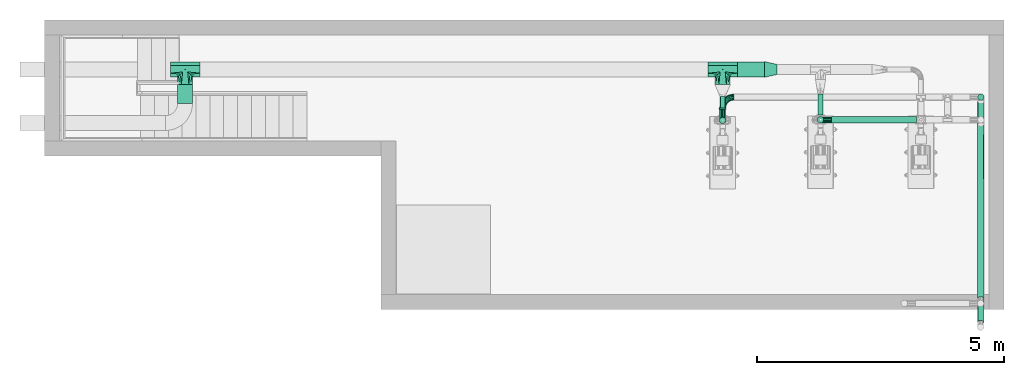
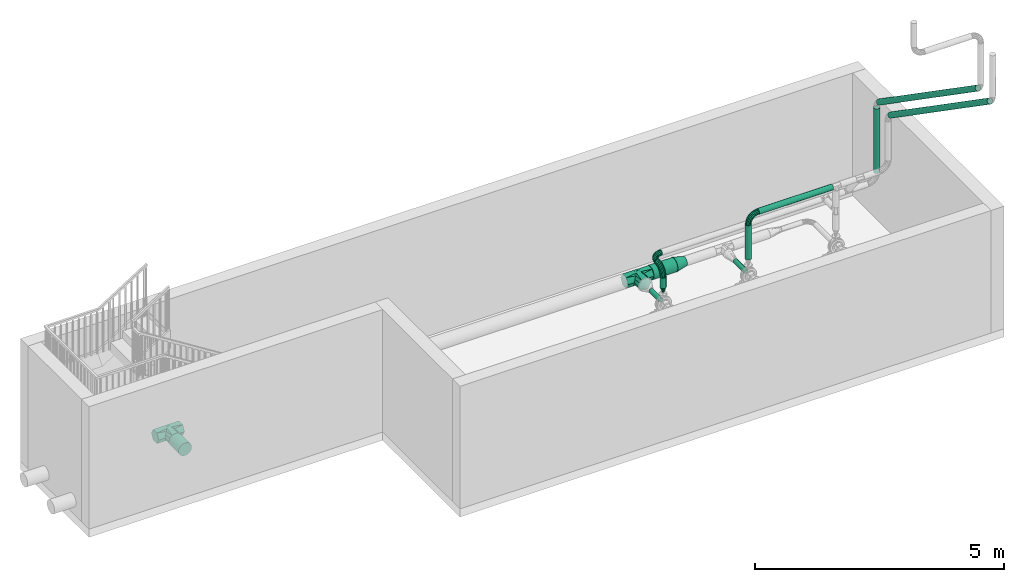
# One storey, part 5 of 12: 11 flow segments, 7 flow fittings.
"""IFC2X3 building model written with IfcOpenShell, lengths in millimetres."""

from ifc_helpers import new_model, entity, si_unit, converted_unit, direction, frame, frame_2d, origin, origin_2d_with_axis, place, context, subcontext, project, spatial, circle, extrude, faceted_brep, source, transform, mapped, material, type_object, type_shapes, element, save


model = new_model("IFC2X3")

# Units and contexts
model_context = context("Model", 3, precision=0.01, world=origin(), true_north=direction((6.123031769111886e-17, 1.0)))
body_context = subcontext(model_context, "Body", "Model", "MODEL_VIEW")
ifc_project = project(units=[si_unit("LENGTHUNIT", "METRE", prefix="MILLI"), converted_unit("PLANEANGLEUNIT", "DEGREE", entity("IfcPlaneAngleMeasure", 0.017453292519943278), si_unit("PLANEANGLEUNIT", "RADIAN"), dimensions=[0, 0, 0, 0, 0, 0, 0]), si_unit("AREAUNIT", "SQUARE_METRE")], contexts=[model_context])

# Site, building, storey
site_placement = place(None, frame((7776.576483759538, 118.3519876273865, 0.0)))
site = spatial("IfcSite", under=ifc_project, at=site_placement, Name="Default", CompositionType="ELEMENT")
building_placement = place(site_placement, origin())
building = spatial("IfcBuilding", under=site, at=building_placement, Name="Bygning (endres i Project Information)", CompositionType="ELEMENT")
storey_placement = place(building_placement, frame((0.0, 0.0, 11000.0)))
storey = spatial("IfcBuildingStorey", under=building, at=storey_placement, Name="Plan U2 - Arbeid", CompositionType="ELEMENT", Elevation=10999.999999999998)

# Flow segments
ifc_material = material(Name="SS 2343 Rustfritt stål, prosessrør, generisk")
pipe_segment_type = type_object("IfcPipeSegmentType", Name="Pipe Types:AISI 304L Rustfritt", PredefinedType="NOTDEFINED", material=ifc_material)
flow_segment_1_placement = place(storey_placement, origin())
element("IfcFlowSegment", 1, at=flow_segment_1_placement, inside=storey, type_object=pipe_segment_type, Name="Pipe Types:AISI 304L Rustfritt", ObjectType="Pipe Types:AISI 304L Rustfritt", context=body_context, shape_type="SweptSolid", body=[
    extrude(circle(Radius=65.5, at=origin_2d_with_axis()), frame((31807.29885235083, 32941.66422853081, 3169.5614004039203), z_axis=(-0.0010326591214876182, -0.8218893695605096, 0.5696462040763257), x_axis=(-0.9999992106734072, 0.0012564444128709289, 0.0)), (0.0, 0.0, 1.0), 4841.2973779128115),
])
flow_segment_2_placement = place(storey_placement, origin())
element("IfcFlowSegment", 2, at=flow_segment_2_placement, inside=storey, type_object=pipe_segment_type, Name="Pipe Types:AISI 304L Rustfritt", ObjectType="Pipe Types:AISI 304L Rustfritt", context=body_context, shape_type="SweptSolid", body=[
    extrude(circle(Radius=65.5, at=frame_2d((0.0, -1.7799953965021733e-12), x_axis=(1.0, 0.0))), frame((31806.65591000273, 32482.819362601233, 3128.307893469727), z_axis=(-0.00106183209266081, -0.8218893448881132, 0.5696461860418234), x_axis=(-0.9999991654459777, 0.0012919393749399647, 0.0)), (0.0, 0.0, 1.0), 4867.037042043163),
])
flow_segment_3_placement = place(storey_placement, origin())
element("IfcFlowSegment", 3, at=flow_segment_3_placement, inside=storey, type_object=pipe_segment_type, Name="Pipe Types:AISI 304L Rustfritt", ObjectType="Pipe Types:AISI 304L Rustfritt", context=body_context, shape_type="SweptSolid", body=[
    extrude(circle(Radius=153.0, at=frame_2d((-1.3812217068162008e-17, 0.0), x_axis=(1.0, 0.0))), frame((15714.0017176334, 32912.53130763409, 320.20054968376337), z_axis=(-3.1888069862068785e-06, 1.0, 0.0), x_axis=(1.0, 3.1888069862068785e-06, 0.0)), (0.0, 0.0, 1.0), 385.2313187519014),
])
flow_segment_4_placement = place(storey_placement, origin())
element("IfcFlowSegment", 4, at=flow_segment_4_placement, inside=storey, type_object=pipe_segment_type, Name="Pipe Types:AISI 304L Rustfritt", ObjectType="Pipe Types:AISI 304L Rustfritt", context=body_context, shape_type="SweptSolid", body=[
    extrude(circle(Radius=65.5, at=frame_2d((0.0, -4.331468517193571e-12), x_axis=(1.0, 0.0))), frame((28564.00137490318, 32579.634050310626, 702.3571167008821)), (0.0, 0.0, 1.0), 837.2075364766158),
])
flow_segment_5_placement = place(storey_placement, origin())
element("IfcFlowSegment", 5, at=flow_segment_5_placement, inside=storey, type_object=pipe_segment_type, Name="Pipe Types:AISI 304L Rustfritt", ObjectType="Pipe Types:AISI 304L Rustfritt", context=body_context, shape_type="SweptSolid", body=[
    extrude(circle(Radius=153.0, at=origin_2d_with_axis()), frame((26883.98697642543, 33597.80166209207, 320.20935671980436), z_axis=(1.0, 1.8312755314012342e-06, 0.0), x_axis=(-1.8312755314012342e-06, 1.0, 0.0)), (0.0, 0.0, 1.0), 549.6838713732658),
])
flow_segment_6_placement = place(storey_placement, origin())
element("IfcFlowSegment", 6, at=flow_segment_6_placement, inside=storey, type_object=pipe_segment_type, Name="Pipe Types:AISI 304L Rustfritt", ObjectType="Pipe Types:AISI 304L Rustfritt", context=body_context, shape_type="SweptSolid", body=[
    extrude(circle(Radius=65.5, at=origin_2d_with_axis()), frame((26583.993257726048, 32567.14059030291, 702.3579674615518), z_axis=(0.0, 0.0, 1.0), x_axis=(-1.0, 0.0, 0.0)), (0.0, 0.0, 1.0), 253.33814707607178),
])
flow_segment_7_placement = place(storey_placement, origin())
element("IfcFlowSegment", 7, at=flow_segment_7_placement, inside=storey, type_object=pipe_segment_type, Name="Pipe Types:AISI 304L Rustfritt", ObjectType="Pipe Types:AISI 304L Rustfritt", context=body_context, shape_type="SweptSolid", body=[
    extrude(circle(Radius=65.5, at=origin_2d_with_axis()), frame((28789.001374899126, 32579.635400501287, 1764.5646531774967), z_axis=(1.0, 6.000847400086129e-06, 0.0), x_axis=(-6.000847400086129e-06, 1.0, 0.0)), (0.0, 0.0, 1.0), 1717.4589493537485),
])
flow_segment_8_placement = place(storey_placement, origin())
element("IfcFlowSegment", 8, at=flow_segment_8_placement, inside=storey, type_object=pipe_segment_type, Name="Pipe Types:AISI 304L Rustfritt", ObjectType="Pipe Types:AISI 304L Rustfritt", context=body_context, shape_type="SweptSolid", body=[
    extrude(circle(Radius=65.5, at=origin_2d_with_axis()), frame((26583.99325772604, 32792.140590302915, 1180.6961145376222), z_axis=(0.0, 1.0, 0.0), x_axis=(1.0, 0.0, 0.0)), (0.0, 0.0, 1.0), 21.32406968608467),
])
flow_segment_9_placement = place(storey_placement, origin())
element("IfcFlowSegment", 9, at=flow_segment_9_placement, inside=storey, type_object=pipe_segment_type, Name="Pipe Types:AISI 304L Rustfritt", ObjectType="Pipe Types:AISI 304L Rustfritt", context=body_context, shape_type="SweptSolid", body=[
    extrude(circle(Radius=65.5, at=origin_2d_with_axis()), frame((31807.45097193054, 33038.46763499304, 1405.69702184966)), (0.0, 0.0, 1.0), 1578.9354080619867),
])
flow_segment_10_placement = place(storey_placement, origin())
element("IfcFlowSegment", 10, at=flow_segment_10_placement, inside=storey, type_object=pipe_segment_type, Name="Pipe Types:AISI 304L Rustfritt", ObjectType="Pipe Types:AISI 304L Rustfritt", context=body_context, shape_type="SweptSolid", body=[
    extrude(circle(Radius=53.0, at=frame_2d((0.0, -2.1657342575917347e-12), x_axis=(1.0, 0.0))), frame((26583.99325772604, 32666.606432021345, 320.2017231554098), z_axis=(0.0, 1.0, 3.046537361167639e-05), x_axis=(1.0, 0.0, 0.0)), (0.0, 0.0, 1.0), 379.28415845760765),
])
flow_segment_11_placement = place(storey_placement, origin())
element("IfcFlowSegment", 11, at=flow_segment_11_placement, inside=storey, type_object=pipe_segment_type, Name="Pipe Types:AISI 304L Rustfritt", ObjectType="Pipe Types:AISI 304L Rustfritt", context=body_context, shape_type="SweptSolid", body=[
    extrude(circle(Radius=53.0, at=origin_2d_with_axis()), frame((28564.001374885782, 32679.12825783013, 320.20914909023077), z_axis=(0.0, 1.0, 0.0), x_axis=(1.0, 0.0, 0.0)), (0.0, 0.0, 1.0), 418.67340426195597),
])

# Flow fittings
pipe_fitting_type_1 = type_object("IfcPipeFittingType", Name="Overganger, konsentriske, rustfritt EN 1,4307304L:Standard", PredefinedType="NOTDEFINED", material=ifc_material)
shared_shape_1 = source(origin(), body_context, "Body", "Brep", [
    faceted_brep([(120.95000000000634, -12.341540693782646, 62.04511492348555), (120.95000000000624, -24.68308138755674, 59.590229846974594), (120.95000000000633, -35.14573438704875, 52.59930861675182), (120.95000000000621, -45.60838738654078, 45.60838738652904), (120.95000000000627, -52.599308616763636, 35.1457343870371), (120.95000000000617, -59.5902298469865, 24.68308138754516), (120.95000000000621, -62.04511492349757, 12.341540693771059), (120.95000000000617, -64.50000000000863, 0.0), (120.95000000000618, -62.045114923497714, -12.341540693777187), (120.95000000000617, -59.5902298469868, -24.683081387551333), (120.95000000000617, -52.59930861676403, -35.1457343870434), (120.95000000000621, -45.608387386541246, -45.60838738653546), (120.95000000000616, -35.14573438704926, -52.59930861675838), (120.95000000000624, -24.68308138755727, -59.5902298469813), (120.95000000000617, -12.341540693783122, -62.04511492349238), (120.95000000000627, 0.0, -64.50000000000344), (120.95000000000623, 12.341540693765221, -62.04511492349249), (120.95000000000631, 24.6830813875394, -59.59022984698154), (120.95000000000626, 35.14573438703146, -52.599308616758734), (120.95000000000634, 45.60838738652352, -45.60838738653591), (120.95000000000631, 52.5993086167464, -35.14573438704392), (120.95000000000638, 59.59022984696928, -24.683081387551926), (120.95000000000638, 62.04511492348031, -12.341540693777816), (120.95000000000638, 64.49999999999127, 0.0), (120.95000000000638, 62.04511492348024, 12.341540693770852), (120.95000000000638, 59.59022984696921, 24.683081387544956), (120.95000000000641, 52.59930861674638, 35.145734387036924), (120.95000000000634, 45.60838738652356, 45.60838738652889), (120.95000000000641, 35.14573438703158, 52.59930861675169), (120.95000000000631, 24.68308138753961, 59.59022984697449), (120.95000000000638, 12.341540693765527, 62.0451149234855), (120.95000000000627, 0.0, 64.4999999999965), (0.0, -21.84345884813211, -15.870201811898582), (0.0, -24.421729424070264, -7.935100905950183), (0.0, -27.0, 0.0), (0.0, -24.42172942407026, 7.93510090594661), (0.0, -21.843458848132, 15.870201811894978), (0.0, -15.093458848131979, 20.774363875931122), (0.0, -8.343458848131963, 25.67852593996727), (0.0, 0.0, 25.678525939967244), (0.0, 8.343458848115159, 25.67852593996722), (0.0, 15.093458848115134, 20.77436387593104), (0.0, 21.843458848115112, 15.870201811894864), (0.0, 24.421729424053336, 7.935100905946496), (0.0, 27.0, 0.0), (0.0, 24.42172942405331, -7.935100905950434), (0.0, 21.843458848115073, -15.870201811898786), (0.0, 15.093458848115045, -20.774363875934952), (0.0, 8.343458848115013, -25.678525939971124), (0.0, 0.0, -25.67852593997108), (0.0, -8.343458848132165, -25.678525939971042), (0.0, -15.093458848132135, -20.774363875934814)], [[[0, 1, 2, 3, 4, 5, 6, 7, 8, 9, 10, 11, 12, 13, 14, 15, 16, 17, 18, 19, 20, 21, 22, 23, 24, 25, 26, 27, 28, 29, 30, 31]], [[32, 33, 34, 35, 36, 37, 38, 39, 40, 41, 42, 43, 44, 45, 46, 47, 48, 49, 50, 51]], [[8, 7, 34]], [[22, 21, 45]], [[47, 46, 19]], [[47, 19, 18, 17]], [[11, 32, 51]], [[32, 11, 10, 9]], [[17, 48, 47]], [[51, 13, 12, 11]], [[32, 9, 33]], [[14, 49, 15]], [[49, 16, 15]], [[49, 14, 50]], [[48, 16, 49]], [[48, 17, 16]], [[21, 46, 45]], [[34, 33, 8]], [[46, 21, 20, 19]], [[44, 22, 45]], [[33, 9, 8]], [[14, 13, 50]], [[22, 44, 23]], [[13, 51, 50]], [[24, 23, 44]], [[6, 5, 35]], [[37, 36, 3]], [[37, 3, 2, 1]], [[27, 42, 41]], [[42, 27, 26, 25]], [[1, 38, 37]], [[41, 29, 28, 27]], [[42, 25, 43]], [[30, 39, 31]], [[39, 0, 31]], [[39, 30, 40]], [[38, 0, 39]], [[38, 1, 0]], [[5, 36, 35]], [[44, 43, 24]], [[36, 5, 4, 3]], [[34, 6, 35]], [[43, 25, 24]], [[30, 29, 40]], [[6, 34, 7]], [[29, 41, 40]]]),
])
type_shapes(pipe_fitting_type_1, [shared_shape_1])
flow_fitting_1_placement = place(storey_placement, frame((26584.02162366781, 32567.14059030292, 581.4079707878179), z_axis=(0.0, 1.0, 0.0), x_axis=(-0.00023452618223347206, 0.0, 0.9999999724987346)))
element("IfcFlowFitting", 12, at=flow_fitting_1_placement, inside=storey, type_object=pipe_fitting_type_1, material=ifc_material, Name="Overganger, konsentriske, rustfritt EN 1,4307304L:Standard", ObjectType="Overganger, konsentriske, rustfritt EN 1,4307304L:Standard", context=body_context, shape_type="MappedRepresentation", body=[
    mapped(shared_shape_1, transform((0.0, 0.0, 0.0), scale=1.0)),
])
pipe_fitting_type_2 = type_object("IfcPipeFittingType", Name="VA_prosess_rustfritt_bend_D+100:VA_prosess_rustfritt_bend_D+100", PredefinedType="NOTDEFINED", material=ifc_material)
shared_shape_2 = source(origin(), body_context, "Body", "Brep", [
    faceted_brep([(-161.02523148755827, -55.291774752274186, 0.0), (-162.4025127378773, -49.25751132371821, 27.117733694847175), (-225.0, -56.310554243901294, 27.117733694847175), (-225.0, -62.50000000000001, 0.0), (-166.26156904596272, -32.34988091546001, 48.86446765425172), (-225.0, -38.968112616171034, 48.86446765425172), (-171.83806698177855, -7.917647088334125, 60.93299451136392), (-225.0, -13.907558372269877, 60.93299451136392), (-178.0275127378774, 19.20008660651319, 60.93299451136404), (-225.0, 13.90755837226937, 60.93299451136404), (-183.60401067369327, 43.632320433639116, 48.86446765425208), (-225.0, 38.96811261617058, 48.86446765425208), (-187.46306698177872, 60.53995084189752, 27.117733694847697), (-225.0, 56.31055424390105, 27.117733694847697), (-188.8403482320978, 66.57421427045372, 0.0), (-225.0, 62.50000000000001, 0.0), (-187.46306698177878, 60.53995084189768, -27.117733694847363), (-225.0, 56.31055424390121, -27.117733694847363), (-183.60401067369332, 43.63232043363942, -48.86446765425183), (-225.0, 38.96811261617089, -48.86446765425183), (-178.0275127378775, 19.20008660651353, -60.932994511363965), (-225.0, 13.90755837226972, -60.932994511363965), (-171.8380669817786, -7.917647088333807, -60.932994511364), (-225.0, -13.907558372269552, -60.932994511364), (-166.26156904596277, -32.34988091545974, -48.864467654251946), (-225.0, -38.96811261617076, -48.864467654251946), (-162.40251273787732, -49.25751132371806, -27.11773369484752), (-225.0, -56.31055424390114, -27.11773369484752), (-100.25842500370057, -34.028549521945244, 0.0), (-102.94392487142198, -28.452051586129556, 27.117733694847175), (-110.46852829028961, -12.82705158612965, 48.86446765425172), (-121.34189526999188, 9.751727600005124, 60.93299451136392), (-133.41042212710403, 34.812281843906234, 60.93299451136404), (-144.28378910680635, 57.39106103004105, 48.86446765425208), (-151.80839252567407, 73.01606103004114, 27.117733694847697), (-154.49389239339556, 78.59255896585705, 0.0), (-151.80839252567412, 73.01606103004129, -27.117733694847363), (-144.28378910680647, 57.391061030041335, -48.86446765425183), (-133.4104221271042, 34.812281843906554, -60.932994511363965), (-121.34189526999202, 9.751727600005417, -60.932994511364), (-110.46852829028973, -12.827051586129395, -48.864467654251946), (-102.94392487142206, -28.452051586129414, -27.11773369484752), (-45.74668196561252, 0.22344879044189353, 0.0), (-49.60573827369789, 5.06255234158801, 27.117733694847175), (-60.4185737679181, 18.621419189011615, 48.86446765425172), (-76.04357376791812, 38.2145494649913, 60.93299451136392), (-93.3860153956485, 59.96128342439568, 60.93299451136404), (-109.01101539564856, 79.5544137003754, 48.86446765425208), (-119.8238508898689, 93.11328054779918, 27.117733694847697), (-123.68290719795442, 97.95238409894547, 0.0), (-119.82385088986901, 93.11328054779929, -27.117733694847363), (-109.01101539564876, 79.55441370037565, -48.86446765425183), (-93.38601539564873, 59.96128342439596, -60.932994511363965), (-76.04357376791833, 38.214549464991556, -60.932994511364), (-60.418573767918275, 18.62141918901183, -48.864467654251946), (-49.60573827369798, 5.06255234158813, -27.11773369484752), (-0.22344879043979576, 45.7466819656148, 0.0), (-5.062552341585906, 49.60573827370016, 27.117733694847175), (-18.621419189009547, 60.41857376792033, 48.86446765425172), (-38.2145494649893, 76.04357376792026, 60.93299451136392), (-59.96128342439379, 93.38601539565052, 60.93299451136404), (-79.55441370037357, 109.01101539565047, 48.86446765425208), (-93.11328054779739, 119.82385088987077, 27.117733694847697), (-97.9523840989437, 123.6829071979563, 0.0), (-93.1132805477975, 119.82385088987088, -27.117733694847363), (-79.55441370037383, 109.01101539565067, -48.86446765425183), (-59.96128342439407, 93.38601539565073, -60.932994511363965), (-38.21454946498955, 76.04357376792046, -60.932994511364), (-18.621419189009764, 60.418573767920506, -48.864467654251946), (-5.062552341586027, 49.60573827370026, -27.11773369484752), (34.02854952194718, 100.25842500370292, 0.0), (28.452051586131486, 102.94392487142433, 27.117733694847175), (12.827051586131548, 110.4685282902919, 48.86446765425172), (-9.751727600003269, 121.34189526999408, 60.93299451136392), (-34.81228184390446, 133.4104221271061, 60.93299451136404), (-57.39106103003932, 144.28378910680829, 48.86446765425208), (-73.01606103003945, 151.80839252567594, 27.117733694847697), (-78.59255896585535, 154.4938923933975, 0.0), (-73.0160610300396, 151.80839252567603, -27.117733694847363), (-57.3910610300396, 144.28378910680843, -48.86446765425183), (-34.81228184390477, 133.41042212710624, -60.932994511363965), (-9.751727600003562, 121.34189526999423, -60.932994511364), (12.827051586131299, 110.46852829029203, -48.864467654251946), (28.452051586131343, 102.9439248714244, -27.11773369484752), (55.29177475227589, 161.0252314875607, 0.0), (49.257511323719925, 162.40251273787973, 27.117733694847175), (32.34988091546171, 166.2615690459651, 48.86446765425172), (7.917647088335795, 171.8380669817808, 60.93299451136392), (-19.200086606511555, 178.02751273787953, 60.93299451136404), (-43.63232043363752, 183.60401067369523, 48.86446765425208), (-60.539950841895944, 187.46306698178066, 27.117733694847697), (-66.57421427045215, 188.84034823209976, 0.0), (-60.53995084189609, 187.46306698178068, -27.117733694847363), (-43.63232043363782, 183.6040106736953, -48.86446765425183), (-19.2000866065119, 178.02751273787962, -60.932994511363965), (7.917647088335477, 171.83806698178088, -60.932994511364), (32.34988091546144, 166.26156904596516, -48.864467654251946), (49.257511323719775, 162.40251273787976, -27.11773369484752), (62.500000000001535, 225.0, 0.0), (56.31055424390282, 225.0, 27.117733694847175), (38.96811261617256, 225.0, 48.86446765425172), (13.9075583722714, 225.0, 60.93299451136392), (-13.907558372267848, 225.0, 60.93299451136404), (-38.96811261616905, 225.0, 48.86446765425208), (-56.310554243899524, 225.0, 27.117733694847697), (-62.49999999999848, 225.0, 0.0), (-56.31055424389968, 225.0, -27.117733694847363), (-38.968112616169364, 225.0, -48.86446765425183), (-13.907558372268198, 225.0, -60.932994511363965), (13.907558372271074, 225.0, -60.932994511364), (38.968112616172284, 225.0, -48.864467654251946), (56.310554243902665, 225.0, -27.11773369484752)], [[[0, 1, 2, 3]], [[1, 4, 5, 2]], [[4, 6, 7, 5]], [[6, 8, 9, 7]], [[8, 10, 11, 9]], [[10, 12, 13, 11]], [[12, 14, 15, 13]], [[14, 16, 17, 15]], [[16, 18, 19, 17]], [[18, 20, 21, 19]], [[20, 22, 23, 21]], [[22, 24, 25, 23]], [[24, 26, 27, 25]], [[26, 0, 3, 27]], [[28, 29, 1, 0]], [[29, 30, 4, 1]], [[30, 31, 6, 4]], [[31, 32, 8, 6]], [[32, 33, 10, 8]], [[33, 34, 12, 10]], [[34, 35, 14, 12]], [[35, 36, 16, 14]], [[36, 37, 18, 16]], [[37, 38, 20, 18]], [[38, 39, 22, 20]], [[39, 40, 24, 22]], [[40, 41, 26, 24]], [[41, 28, 0, 26]], [[42, 43, 29, 28]], [[43, 44, 30, 29]], [[44, 45, 31, 30]], [[45, 46, 32, 31]], [[46, 47, 33, 32]], [[47, 48, 34, 33]], [[48, 49, 35, 34]], [[49, 50, 36, 35]], [[50, 51, 37, 36]], [[51, 52, 38, 37]], [[52, 53, 39, 38]], [[53, 54, 40, 39]], [[54, 55, 41, 40]], [[55, 42, 28, 41]], [[56, 57, 43, 42]], [[57, 58, 44, 43]], [[58, 59, 45, 44]], [[59, 60, 46, 45]], [[60, 61, 47, 46]], [[61, 62, 48, 47]], [[62, 63, 49, 48]], [[63, 64, 50, 49]], [[64, 65, 51, 50]], [[65, 66, 52, 51]], [[66, 67, 53, 52]], [[67, 68, 54, 53]], [[68, 69, 55, 54]], [[69, 56, 42, 55]], [[70, 71, 57, 56]], [[71, 72, 58, 57]], [[72, 73, 59, 58]], [[73, 74, 60, 59]], [[74, 75, 61, 60]], [[75, 76, 62, 61]], [[76, 77, 63, 62]], [[77, 78, 64, 63]], [[78, 79, 65, 64]], [[79, 80, 66, 65]], [[80, 81, 67, 66]], [[81, 82, 68, 67]], [[82, 83, 69, 68]], [[83, 70, 56, 69]], [[84, 85, 71, 70]], [[85, 86, 72, 71]], [[86, 87, 73, 72]], [[87, 88, 74, 73]], [[88, 89, 75, 74]], [[89, 90, 76, 75]], [[90, 91, 77, 76]], [[91, 92, 78, 77]], [[92, 93, 79, 78]], [[93, 94, 80, 79]], [[94, 95, 81, 80]], [[95, 96, 82, 81]], [[96, 97, 83, 82]], [[97, 84, 70, 83]], [[98, 99, 85, 84]], [[99, 100, 86, 85]], [[100, 101, 87, 86]], [[101, 102, 88, 87]], [[102, 103, 89, 88]], [[103, 104, 90, 89]], [[104, 105, 91, 90]], [[105, 106, 92, 91]], [[106, 107, 93, 92]], [[107, 108, 94, 93]], [[108, 109, 95, 94]], [[109, 110, 96, 95]], [[110, 111, 97, 96]], [[111, 98, 84, 97]], [[3, 2, 5, 7, 9, 11, 13, 15, 17, 19, 21, 23, 25, 27]], [[111, 110, 109, 108, 107, 106, 105, 104, 103, 102, 101, 100, 99, 98]]]),
])
type_shapes(pipe_fitting_type_2, [shared_shape_2])
for number, where, z_axis, x_axis in (
    (13, (28564.00137490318, 32579.634050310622, 1764.5646531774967), (-6.000847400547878e-06, 1.0, 0.0), (0.0, 0.0, 1.0)),
    (14, (26583.99325772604, 32567.14059030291, 1180.6961145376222), (-1.0, 0.0, 0.0), (0.0, 0.0, 1.0)),
    (15, (26583.99325772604, 33038.464659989, 1180.6961145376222), (0.0, 0.0, 1.0), (-1.0, 0.0, 0.0)),
):
    element("IfcFlowFitting", number, at=place(storey_placement, frame(where, z_axis=z_axis, x_axis=x_axis)), inside=storey, type_object=pipe_fitting_type_2, material=ifc_material, Name="VA_prosess_rustfritt_bend_D+100:VA_prosess_rustfritt_bend_D+100", ObjectType="VA_prosess_rustfritt_bend_D+100:VA_prosess_rustfritt_bend_D+100", context=body_context, shape_type="MappedRepresentation", body=[
        mapped(shared_shape_2, transform((0.0, 0.0, 0.0), scale=1.0)),
    ])
pipe_fitting_type_3 = type_object("IfcPipeFittingType", Name="Overganger, konsentriske, rustfritt EN 1,4307304L:Standard", PredefinedType="NOTDEFINED", material=ifc_material)
shared_shape_3 = source(origin(), body_context, "Body", "Brep", [
    faceted_brep([(252.2000000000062, -40.97105483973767, 152.9060583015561), (252.20000000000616, -79.15000000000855, 137.09182141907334), (252.20000000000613, -111.93500346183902, 111.93500346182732), (252.20000000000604, -137.09182141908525, 79.149999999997), (252.20000000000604, -152.9060583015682, 40.971054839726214), (252.200000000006, -158.30000000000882, 0.0), (252.20000000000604, -152.90605830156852, -40.971054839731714), (252.20000000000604, -137.09182141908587, -79.1500000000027), (252.20000000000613, -111.93500346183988, -111.93500346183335), (252.20000000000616, -79.15000000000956, -137.09182141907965), (252.2000000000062, -40.97105483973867, -152.9060583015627), (252.2000000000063, 0.0, -158.30000000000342), (252.20000000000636, 40.971054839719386, -152.9060583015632), (252.2000000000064, 79.14999999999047, -137.09182141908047), (252.20000000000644, 111.93500346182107, -111.93500346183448), (252.20000000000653, 137.09182141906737, -79.15000000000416), (252.20000000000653, 152.90605830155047, -40.971054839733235), (252.20000000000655, 158.2999999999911, 0.0), (252.20000000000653, 152.90605830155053, 40.97105483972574), (252.20000000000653, 137.0918214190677, 79.14999999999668), (252.20000000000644, 111.93500346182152, 111.93500346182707), (252.2000000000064, 79.14999999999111, 137.09182141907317), (252.20000000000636, 40.97105483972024, 152.90605830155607), (252.2000000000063, 0.0, 158.29999999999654), (0.0, 17.71211412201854, 100.45039080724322), (0.0, 51.0, 88.33459118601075), (0.0, 78.13653319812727, 65.56433618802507), (0.0, 95.84864732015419, 34.8860546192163), (0.0, 102.0, 0.0), (0.0, 95.84864732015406, -34.88605461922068), (0.0, 78.13653319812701, -65.5643361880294), (0.0, 51.0, -88.33459118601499), (0.0, 17.71211412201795, -100.4503908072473), (0.0, -17.71211412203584, -100.4503908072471), (0.0, -51.0, -88.33459118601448), (0.0, -78.13653319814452, -65.5643361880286), (0.0, -95.84864732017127, -34.88605461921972), (0.0, -102.0, 0.0), (0.0, -95.84864732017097, 34.8860546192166), (0.0, -78.136533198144, 65.56433618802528), (0.0, -51.0, 88.3345911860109), (0.0, -17.71211412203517, 100.45039080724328)], [[[0, 1, 2, 3, 4, 5, 6, 7, 8, 9, 10, 11, 12, 13, 14, 15, 16, 17, 18, 19, 20, 21, 22, 23]], [[24, 25, 26, 27, 28, 29, 30, 31, 32, 33, 34, 35, 36, 37, 38, 39, 40, 41]], [[6, 37, 36]], [[8, 35, 34]], [[7, 36, 35]], [[10, 34, 33]], [[6, 5, 37]], [[7, 6, 36]], [[34, 9, 8]], [[8, 7, 35]], [[10, 9, 34]], [[33, 11, 10]], [[12, 11, 32]], [[32, 11, 33]], [[31, 12, 32]], [[15, 30, 29]], [[14, 31, 30]], [[16, 29, 28]], [[31, 13, 12]], [[31, 14, 13]], [[15, 14, 30]], [[29, 16, 15]], [[28, 17, 16]], [[18, 28, 27]], [[20, 26, 25]], [[19, 27, 26]], [[22, 25, 24]], [[18, 17, 28]], [[19, 18, 27]], [[25, 21, 20]], [[20, 19, 26]], [[22, 21, 25]], [[24, 23, 22]], [[0, 23, 41]], [[41, 23, 24]], [[40, 0, 41]], [[3, 39, 38]], [[2, 40, 39]], [[4, 38, 37]], [[40, 1, 0]], [[40, 2, 1]], [[3, 2, 39]], [[38, 4, 3]], [[37, 5, 4]]]),
])
type_shapes(pipe_fitting_type_3, [shared_shape_3])
flow_fitting_2_placement = place(storey_placement, frame((27685.87084779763, 33597.80239583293, 320.20930043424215), z_axis=(2.231782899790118e-07, 0.0, 1.0), x_axis=(-1.0, 1.082005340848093e-06, 2.2317828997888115e-07)))
element("IfcFlowFitting", 16, at=flow_fitting_2_placement, inside=storey, type_object=pipe_fitting_type_3, material=ifc_material, Name="Overganger, konsentriske, rustfritt EN 1,4307304L:Standard", ObjectType="Overganger, konsentriske, rustfritt EN 1,4307304L:Standard", context=body_context, shape_type="MappedRepresentation", body=[
    mapped(shared_shape_3, transform((0.0, 0.0, 0.0), scale=1.0)),
])
pipe_fitting_type_4 = type_object("IfcPipeFittingType", Name="VA_prosess_rustfritt_T_D=L:T-rør_prosess_D=L", PredefinedType="NOTDEFINED", material=ifc_material)
shared_shape_4 = source(origin(), body_context, "Body", "Brep", [
    faceted_brep([(-300.0, -75.0, 129.90381056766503), (-300.0, 0.0, 129.90381056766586), (-300.0, 75.0, 129.90381056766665), (-300.0, 112.50000000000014, 64.95190528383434), (-300.0, 150.0, 0.0), (-300.0, 112.50000000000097, -64.95190528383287), (-300.0, 75.0, -129.90381056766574), (-300.0, 0.0, -129.90381056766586), (-300.0, -75.0, -129.90381056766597), (-300.0, -112.49999999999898, -64.9519052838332), (-300.0, -150.0, 0.0), (-300.0, -112.4999999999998, 64.95190528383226), (300.0, 75.0, -129.90381056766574), (300.0, 112.49999999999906, -64.95190528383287), (300.0, 150.0, 0.0), (300.0, 98.95367259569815, 88.4148326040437), (300.0, 75.0, 129.90381056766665), (300.0, 0.0, 129.90381056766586), (300.0, -75.0, 129.90381056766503), (300.0, -112.50000000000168, 64.9519052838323), (300.0, -150.0, 0.0), (300.0, -112.50000000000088, -64.95190528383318), (300.0, -75.0, -129.90381056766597), (300.0, 0.0, -129.90381056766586), (150.0, -150.0, 0.0), (134.2449937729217, -134.24499377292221, 66.91996448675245), (-150.0, -150.0, 0.0), (-134.2449937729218, -134.2449937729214, 66.91996448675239), (96.8791521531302, -96.87915215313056, 114.5182512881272), (50.12992533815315, -50.12992533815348, 141.37535352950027), (0.0, 0.0, 150.0), (-96.8791521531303, -96.87915215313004, 114.51825128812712), (-50.129925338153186, -50.129925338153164, 141.37535352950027), (-134.24499377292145, -134.24499377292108, -66.91996448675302), (50.12992533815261, -50.129925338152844, -141.37535352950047), (0.0, 0.0, -150.0), (-96.87915215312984, -96.87915215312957, -114.51825128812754), (-50.12992533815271, -50.129925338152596, -141.37535352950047), (96.87915215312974, -96.87915215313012, -114.51825128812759), (134.24499377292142, -134.24499377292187, -66.91996448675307), (75.0, -300.0, -129.90381056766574), (112.50000000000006, -300.0, -64.95190528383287), (150.0, -300.0, 0.0), (112.49999999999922, -300.0, 64.95190528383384), (75.0, -300.0, 129.90381056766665), (0.0, -300.0, 129.90381056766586), (-75.0, -300.0, 129.90381056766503), (-112.50000000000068, -300.0, 64.95190528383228), (-150.0, -300.0, 0.0), (-112.4999999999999, -300.0, -64.95190528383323), (-75.0, -300.0, -129.90381056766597), (0.0, -300.0, -129.90381056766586)], [[[0, 1, 2, 3, 4, 5, 6, 7, 8, 9, 10, 11]], [[12, 13, 14, 15, 16, 17, 18, 19, 20, 21, 22, 23]], [[24, 20, 25]], [[10, 26, 27]], [[14, 4, 3, 2, 16, 15]], [[28, 25, 19]], [[19, 18, 28]], [[29, 17, 30]], [[10, 27, 11]], [[11, 31, 0]], [[25, 20, 19]], [[31, 11, 27]], [[29, 18, 17]], [[30, 17, 16]], [[32, 30, 1]], [[0, 31, 32]], [[16, 2, 30]], [[1, 0, 32]], [[30, 2, 1]], [[28, 18, 29]], [[4, 14, 13, 12, 6, 5]], [[33, 10, 9]], [[34, 35, 23]], [[23, 22, 34]], [[6, 12, 35]], [[7, 6, 35]], [[36, 8, 37]], [[8, 7, 37]], [[37, 7, 35]], [[21, 38, 22]], [[39, 21, 20]], [[20, 24, 39]], [[33, 26, 10]], [[38, 21, 39]], [[35, 12, 23]], [[8, 36, 9]], [[9, 36, 33]], [[38, 34, 22]], [[40, 41, 42, 43, 44, 45, 46, 47, 48, 49, 50, 51]], [[47, 46, 31]], [[47, 26, 48]], [[42, 24, 43]], [[47, 31, 27]], [[26, 47, 27]], [[31, 46, 32]], [[24, 25, 43]], [[28, 43, 25]], [[45, 44, 29, 32, 46]], [[43, 28, 44]], [[29, 30, 32]], [[44, 28, 29]], [[41, 40, 38]], [[41, 24, 42]], [[48, 26, 49]], [[41, 38, 39]], [[24, 41, 39]], [[38, 40, 34]], [[26, 33, 49]], [[36, 49, 33]], [[51, 50, 37, 34, 40]], [[49, 36, 50]], [[37, 35, 34]], [[50, 36, 37]]]),
])
type_shapes(pipe_fitting_type_4, [shared_shape_4])
flow_fitting_3_placement = place(storey_placement, frame((15713.999532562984, 33597.76262638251, 320.20054968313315)))
element("IfcFlowFitting", 17, at=flow_fitting_3_placement, inside=storey, type_object=pipe_fitting_type_4, material=ifc_material, Name="VA_prosess_rustfritt_T_D=L:T-rør_prosess_D=L", ObjectType="VA_prosess_rustfritt_T_D=L:T-rør_prosess_D=L", context=body_context, shape_type="MappedRepresentation", body=[
    mapped(shared_shape_4, transform((0.0, 0.0, 0.0), scale=1.0)),
])
flow_fitting_4_placement = place(storey_placement, frame((26583.986976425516, 33597.80166209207, 320.2085944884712), z_axis=(7.491303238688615e-07, 0.0, -1.0), x_axis=(-1.0, 0.0, -7.491303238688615e-07)))
element("IfcFlowFitting", 18, at=flow_fitting_4_placement, inside=storey, type_object=pipe_fitting_type_4, material=ifc_material, Name="VA_prosess_rustfritt_T_D=L:T-rør_prosess_D=L", ObjectType="VA_prosess_rustfritt_T_D=L:T-rør_prosess_D=L", context=body_context, shape_type="MappedRepresentation", body=[
    mapped(shared_shape_4, transform((0.0, 0.0, 0.0), scale=1.0)),
])

save(model, "model.ifc")
